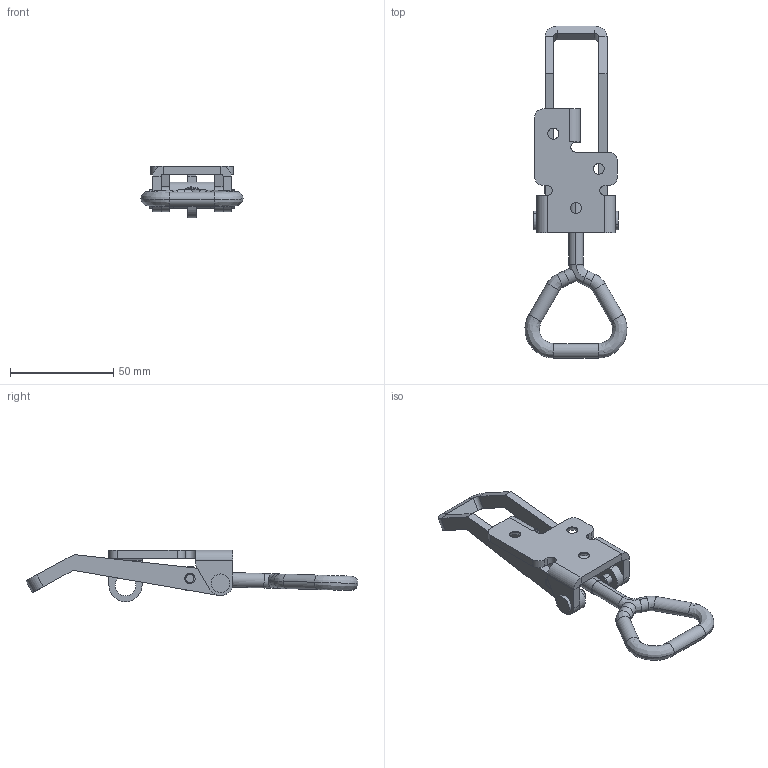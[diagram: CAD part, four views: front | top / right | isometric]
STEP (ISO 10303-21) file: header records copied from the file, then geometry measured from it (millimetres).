
FILE_DESCRIPTION (( 'STEP AP214' ), '1' );
FILE_NAME ('52091.STEP', '2015-11-23T10:11:45', ( '' ), ( '' ), 'SwSTEP 2.0', 'SolidWorks 2015', '' );
FILE_SCHEMA (( 'AUTOMOTIVE_DESIGN' ));
Length unit declared in the file: millimetre
Products named in the file (12): 703 - Rulle; 704 - Rivet Gradin; 703 - Bygel; 703- Platta LC; 52091; 703 - Skruvögla
Assembly tree (6 placements, depth 2):
  703 - Rulle
  704 - Rivet Gradin
  704 - Rivet Gradin
  703 - Bygel
  703- Platta LC
Bounding box: 49.37 x 160.7 x 25 mm (x, y, z)
Volume: 26725.9 mm3; surface area: 18431.1 mm2
Topology: 6 solids, 6 shells, 174 faces, 390 edges, 234 vertices
Faces by surface type: cylinder 72, plane 66, cone 18, bspline 16, torus 2
Entity records: 5290 total; most frequent: CARTESIAN_POINT 1266, DIRECTION 834, ORIENTED_EDGE 736, EDGE_CURVE 368, AXIS2_PLACEMENT_3D 326, VERTEX_POINT 220, EDGE_LOOP 190, LINE 182
